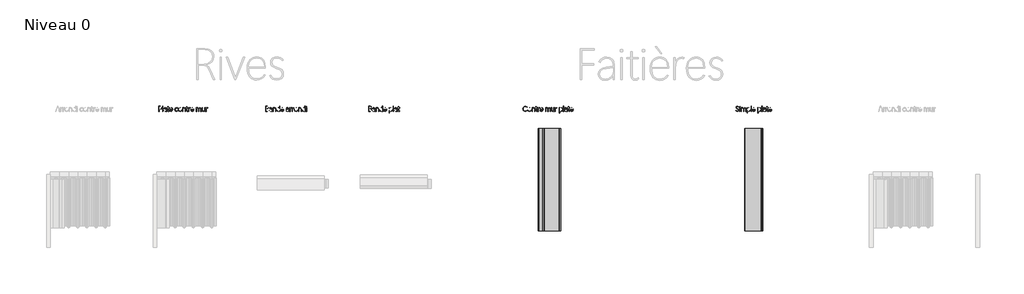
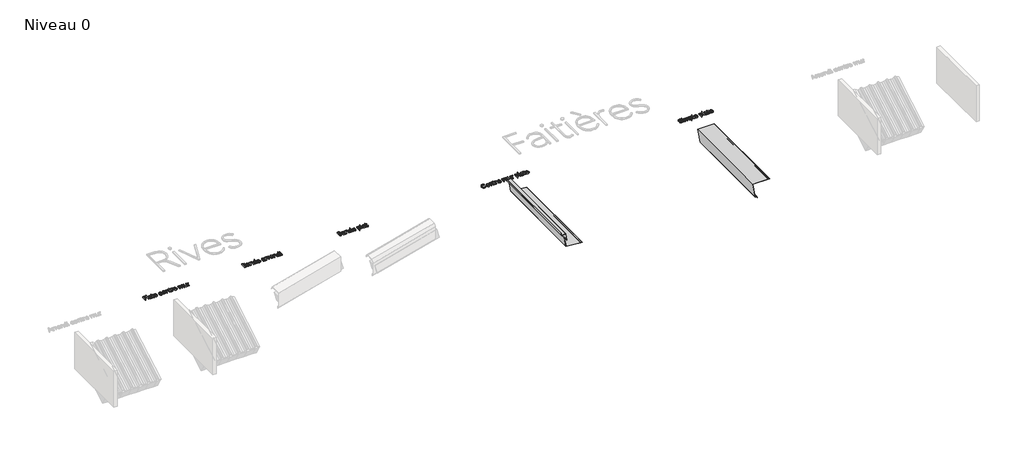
# One storey, part 16 of 26: 7 proxies.
"""IFC4 building model written with IfcOpenShell, lengths in millimetres."""

from ifc_helpers import new_model, si_unit, origin, origin_with_axes, place, context, project, spatial, polyline, outline, extrude, transform, mapped, element, save
from components import generic_models_2b05da81, generic_models_b33f6de4

model = new_model("IFC4")

# Units and contexts
model_context = context("Model", 3, world=origin())
ifc_project = project(units=[si_unit("LENGTHUNIT", "METRE", prefix="MILLI")], contexts=[model_context])

# Site, building, storey
site = spatial("IfcSite", under=ifc_project)
building = spatial("IfcBuilding", under=site)
storey = spatial("IfcBuildingStorey", under=building, Name="Niveau 0", Elevation=0.0)

# Proxies
placement = place(None, origin())
generic_models_shape = generic_models_2b05da81(model_context)
element("IfcBuildingElementProxy", 1, Name="Faitiere simple plate : Faitiere simple plate", ObjectType="Faitiere simple plate : Faitiere simple plate", at=placement, inside=storey, context=model_context, shape_type="MappedRepresentation", body=[
    mapped(generic_models_shape, transform((13964.6881645, -8404.4337097, 0.0), x_axis=(0.0, -1.0, 0.0), y_axis=(1.0, 0.0, 0.0), z_axis=(0.0, 0.0, 1.0))),
])
generic_models_2_shape = generic_models_b33f6de4(model_context)
element("IfcBuildingElementProxy", 2, Name="Faitiere contre mur plate : Faitiere contre mur plate", ObjectType="Faitiere contre mur plate : Faitiere contre mur plate", at=placement, inside=storey, context=model_context, shape_type="MappedRepresentation", body=[
    mapped(generic_models_2_shape, transform((12006.583757, -8404.4337097, 0.0), x_axis=(0.0, -1.0, 0.0), y_axis=(1.0, 0.0, 0.0), z_axis=(0.0, 0.0, 1.0))),
])
element("IfcBuildingElementProxy", 3, Name="0.5mm", ObjectType="0.5mm", at=placement, inside=storey, context=model_context, shape_type="SweptSolid", body=[
    extrude(outline(polyline([(13869.6233254, -8231.5532262), (13871.6912741, -8230.4076719), (13876.5859153, -8236.1056888), (13883.6080145, -8237.9356002), (13892.0434599, -8234.9006251), (13895.3908589, -8226.747849), (13892.9212223, -8219.212482), (13884.5899182, -8214.4294208), (13874.8601452, -8209.0587051), (13871.8251701, -8201.0844568), (13875.484993, -8192.0316023), (13885.0362381, -8188.4238501), (13892.7352557, -8190.5141148), (13897.5927035, -8195.9220238), (13895.5396322, -8197.0378234), (13891.4037348, -8192.3217102), (13885.0064834, -8190.5810627), (13877.3223431, -8193.3556846), (13874.1311561, -8200.8761742), (13876.7272499, -8207.6007269), (13885.2445207, -8212.2424534), (13894.855275, -8217.8512064), (13897.7265995, -8226.5395664), (13893.7394754, -8236.3139714), (13883.6080145, -8240.0928129), (13875.3139037, -8237.8984069), (13869.6233254, -8231.5532262)])), origin_with_axes(), (0.0, 0.0, 1.0), 10.0),
    extrude(outline(polyline([(13908.5126629, -8194.8359788), (13906.868718, -8194.211131), (13906.2066769, -8192.5746248), (13906.868718, -8190.93068), (13908.5126629, -8190.2983935), (13910.193801, -8190.93068), (13910.8037715, -8192.5746248), (13910.193801, -8194.211131), (13908.5126629, -8194.8359788)])), origin_with_axes(), (0.0, 0.0, 1.0), 10.0),
    extrude(outline(polyline([(13909.6284625, -8239.2596825), (13907.4563725, -8239.2596825), (13907.4563725, -8203.5540934), (13909.6284625, -8203.5540934), (13909.6284625, -8239.2596825)])), origin_with_axes(), (0.0, 0.0, 1.0), 10.0),
    extrude(outline(polyline([(13968.6021938, -8239.2596825), (13966.4747358, -8239.2596825), (13966.4747358, -8217.018076), (13963.9976605, -8207.7420615), (13957.1317733, -8204.7442797), (13949.447633, -8208.262768), (13946.3605873, -8217.2263586), (13946.3605873, -8239.2596825), (13944.2033746, -8239.2596825), (13944.2033746, -8216.839548), (13941.9197046, -8207.9131508), (13935.128204, -8204.7442797), (13927.1613945, -8208.1214334), (13924.0743487, -8216.973444), (13924.0743487, -8239.2596825), (13921.9171361, -8239.2596825), (13921.9171361, -8203.5540934), (13924.0743487, -8203.5540934), (13924.0743487, -8209.371129), (13928.8053393, -8204.3723465), (13935.306732, -8202.676331), (13942.1577419, -8205.0120716), (13945.6315981, -8211.2307951), (13950.2286927, -8204.9302463), (13957.1615279, -8202.676331), (13965.6564827, -8206.2915219), (13968.6021938, -8216.839548), (13968.6021938, -8239.2596825)])), origin_with_axes(), (0.0, 0.0, 1.0), 10.0),
    extrude(outline(polyline([(13981.3074325, -8233.1897323), (13981.2032912, -8255.6842534), (13979.0460786, -8255.6842534), (13979.0460786, -8203.5540934), (13981.2032912, -8203.5540934), (13981.2032912, -8211.6771149), (13986.4252336, -8205.1905996), (13994.8755564, -8202.676331), (14005.6021104, -8207.5784109), (14009.5594799, -8220.320843), (14005.2301772, -8234.9303798), (13993.6853701, -8240.0928129), (13986.0235458, -8238.1587601), (13981.3074325, -8233.1897323)]), holes=[polyline([(13981.2032912, -8219.7257498), (13981.2032912, -8226.0783692), (13984.7069022, -8234.5361306), (13993.7300021, -8238.0397415), (14003.593671, -8233.5616656), (14007.3278806, -8220.3654749), (14003.9060949, -8209.0140731), (13994.7714151, -8204.7442797), (13984.7961661, -8209.1554077), (13981.2032912, -8219.7257498)])]), origin_with_axes(), (0.0, 0.0, 1.0), 10.0),
    extrude(outline(polyline([(14018.0841893, -8239.2596825), (14018.0841893, -8186.4005333), (14020.2414019, -8186.4005333), (14020.2414019, -8239.2596825), (14018.0841893, -8239.2596825)])), origin_with_axes(), (0.0, 0.0, 1.0), 10.0),
    extrude(outline(polyline([(14058.2976089, -8220.4770549), (14031.0274653, -8220.7374082), (14034.6054629, -8233.7476322), (14044.4616932, -8238.0694962), (14051.2160004, -8236.3957967), (14055.991623, -8231.3746982), (14057.8810437, -8232.3863566), (14052.4061867, -8238.1661988), (14044.4616932, -8240.1374449), (14033.0879753, -8235.3543837), (14028.840498, -8220.6332669), (14033.2441873, -8207.5932882), (14044.4616932, -8202.676331), (14054.6675407, -8207.176723), (14058.2976089, -8220.4770549)]), holes=[polyline([(14056.0957643, -8218.7289688), (14052.8376293, -8208.2776453), (14044.3873065, -8204.7442797), (14035.28982, -8208.3669093), (14031.1316066, -8218.7289688), (14056.0957643, -8218.7289688)])]), origin_with_axes(), (0.0, 0.0, 1.0), 10.0),
    extrude(outline(polyline([(14086.0438271, -8233.1897323), (14085.9396858, -8255.6842534), (14083.7824731, -8255.6842534), (14083.7824731, -8203.5540934), (14085.9396858, -8203.5540934), (14085.9396858, -8211.6771149), (14091.1616282, -8205.1905996), (14099.6119509, -8202.676331), (14110.338505, -8207.5784109), (14114.2958744, -8220.320843), (14109.9665718, -8234.9303798), (14098.4217646, -8240.0928129), (14090.7599403, -8238.1587601), (14086.0438271, -8233.1897323)]), holes=[polyline([(14085.9396858, -8219.7257498), (14085.9396858, -8226.0783692), (14089.4432967, -8234.5361306), (14098.4663966, -8238.0397415), (14108.3300656, -8233.5616656), (14112.0642751, -8220.3654749), (14108.6424895, -8209.0140731), (14099.5078096, -8204.7442797), (14089.5325607, -8209.1554077), (14085.9396858, -8219.7257498)])]), origin_with_axes(), (0.0, 0.0, 1.0), 10.0),
    extrude(outline(polyline([(14122.8205838, -8239.2596825), (14122.8205838, -8186.4005333), (14124.9777965, -8186.4005333), (14124.9777965, -8239.2596825), (14122.8205838, -8239.2596825)])), origin_with_axes(), (0.0, 0.0, 1.0), 10.0),
    extrude(outline(polyline([(14159.9692738, -8239.2596825), (14157.7971838, -8239.2596825), (14157.7971838, -8232.3863566), (14152.5529254, -8237.9356002), (14145.002681, -8240.0928129), (14136.9689235, -8237.3033137), (14134.1273537, -8230.1547573), (14137.2292767, -8222.8871822), (14146.9664884, -8219.145534), (14157.8418158, -8217.6131691), (14157.8418158, -8215.5154658), (14155.1043873, -8207.4817082), (14147.6954775, -8204.7442797), (14141.4693154, -8206.4179792), (14136.9838008, -8211.364691), (14135.0051161, -8210.2488914), (14140.4204638, -8204.6178224), (14147.6954775, -8202.676331), (14156.6367521, -8206.0088527), (14159.9692738, -8215.5452204), (14159.9692738, -8239.2596825)]), holes=[polyline([(14157.7971838, -8225.3493801), (14157.7971838, -8219.6662405), (14147.2342803, -8221.094464), (14138.9922402, -8224.0699298), (14136.358953, -8230.095248), (14138.7467643, -8235.9494768), (14145.181209, -8238.1141282), (14154.0555356, -8234.4319893), (14157.7971838, -8225.3493801)])]), origin_with_axes(), (0.0, 0.0, 1.0), 10.0),
    extrude(outline(polyline([(14185.0673274, -8237.519035), (14182.129055, -8239.3861398), (14178.893236, -8239.9589169), (14173.8572602, -8238.0025482), (14172.1686834, -8232.1483193), (14172.1686834, -8205.5476555), (14165.6226587, -8205.5476555), (14165.6226587, -8203.5540934), (14172.1686834, -8203.5540934), (14172.1686834, -8193.9582164), (14174.325896, -8193.5862831), (14174.325896, -8203.5540934), (14184.055669, -8203.5540934), (14184.055669, -8205.5476555), (14174.325896, -8205.5476555), (14174.325896, -8231.999546), (14175.5160823, -8236.4850607), (14179.0420093, -8237.9653549), (14181.4967685, -8237.496719), (14183.8176318, -8235.9420382), (14185.0673274, -8237.519035)])), origin_with_axes(), (0.0, 0.0, 1.0), 10.0),
    extrude(outline(polyline([(14218.2586479, -8220.4770549), (14190.9885043, -8220.7374082), (14194.5665018, -8233.7476322), (14204.4227321, -8238.0694962), (14211.1770394, -8236.3957967), (14215.9526619, -8231.3746982), (14217.8420827, -8232.3863566), (14212.3672257, -8238.1661988), (14204.4227321, -8240.1374449), (14193.0490143, -8235.3543837), (14188.8015369, -8220.6332669), (14193.2052262, -8207.5932882), (14204.4227321, -8202.676331), (14214.6285797, -8207.176723), (14218.2586479, -8220.4770549)]), holes=[polyline([(14216.0568032, -8218.7289688), (14212.7986682, -8208.2776453), (14204.3483455, -8204.7442797), (14195.2508589, -8208.3669093), (14191.0926456, -8218.7289688), (14216.0568032, -8218.7289688)])]), origin_with_axes(), (0.0, 0.0, 1.0), 10.0),
])
element("IfcBuildingElementProxy", 4, Name="0.5mm", ObjectType="0.5mm", at=placement, inside=storey, context=model_context, shape_type="SweptSolid", body=[
    extrude(outline(polyline([(11839.600876, -8230.1250026), (11832.0729476, -8237.4818417), (11821.3761482, -8240.0928129), (11812.2526264, -8238.3317091), (11804.9664546, -8233.0483977), (11800.1908321, -8224.9235165), (11798.5989579, -8214.6377034), (11800.2336044, -8204.0097116), (11805.1375439, -8195.6319159), (11812.5855066, -8190.1923925), (11821.8522228, -8188.3792181), (11831.775401, -8190.662888), (11839.2586974, -8197.6924259), (11837.2651354, -8198.8826122), (11830.77862, -8192.7233981), (11821.8224681, -8190.6108174), (11813.5209186, -8192.2714992), (11806.8261207, -8197.2535447), (11802.407554, -8204.9135093), (11800.9346985, -8214.6079487), (11802.3647817, -8224.0383155), (11806.6550314, -8231.4714009), (11813.1843191, -8236.2972344), (11821.3315162, -8237.9058456), (11830.7265494, -8235.6519303), (11837.5775593, -8228.9794483), (11839.600876, -8230.1250026)])), origin_with_axes(), (0.0, 0.0, 1.0), 10.0),
    extrude(outline(polyline([(11863.3748474, -8240.0928129), (11851.1531218, -8234.9303798), (11846.5039565, -8221.4812746), (11851.3093337, -8207.9131508), (11863.5087433, -8202.676331), (11875.6486436, -8207.9280281), (11880.2457382, -8221.406888), (11875.5891343, -8234.8783092), (11863.3748474, -8240.0928129)]), holes=[polyline([(11863.449234, -8238.0397415), (11874.0418921, -8233.4054536), (11878.0141389, -8221.3771333), (11874.0567694, -8209.3636903), (11863.5087433, -8204.7442797), (11852.8268213, -8209.4455156), (11848.7355558, -8221.5110293), (11852.7598733, -8233.4575243), (11863.449234, -8238.0397415)])]), origin_with_axes(), (0.0, 0.0, 1.0), 10.0),
    extrude(outline(polyline([(11914.582613, -8239.2596825), (11912.455155, -8239.2596825), (11912.455155, -8217.018076), (11909.7326038, -8207.9652214), (11902.1600435, -8204.7442797), (11893.5907021, -8208.19582), (11890.2730578, -8217.018076), (11890.2730578, -8239.2596825), (11888.1158451, -8239.2596825), (11888.1158451, -8203.5540934), (11890.2730578, -8203.5540934), (11890.2730578, -8209.6537982), (11895.1751376, -8204.4764878), (11902.2790621, -8202.676331), (11911.3542326, -8206.4626112), (11914.582613, -8216.8097934), (11914.582613, -8239.2596825)])), origin_with_axes(), (0.0, 0.0, 1.0), 10.0),
    extrude(outline(polyline([(11938.9368002, -8237.519035), (11935.9985278, -8239.3861398), (11932.7627088, -8239.9589169), (11927.726733, -8238.0025482), (11926.0381561, -8232.1483193), (11926.0381561, -8205.5476555), (11919.4921315, -8205.5476555), (11919.4921315, -8203.5540934), (11926.0381561, -8203.5540934), (11926.0381561, -8193.9582164), (11928.1953688, -8193.5862831), (11928.1953688, -8203.5540934), (11937.9251418, -8203.5540934), (11937.9251418, -8205.5476555), (11928.1953688, -8205.5476555), (11928.1953688, -8231.999546), (11929.3855551, -8236.4850607), (11932.911482, -8237.9653549), (11935.3662413, -8237.496719), (11937.6871046, -8235.9420382), (11938.9368002, -8237.519035)])), origin_with_axes(), (0.0, 0.0, 1.0), 10.0),
    extrude(outline(polyline([(11961.0445107, -8205.5476555), (11959.3187406, -8204.960001), (11957.5929705, -8204.803789), (11950.2510087, -8209.0066344), (11947.3722456, -8221.1242187), (11947.3722456, -8239.2596825), (11945.2447876, -8239.2596825), (11945.2447876, -8203.5540934), (11947.3722456, -8203.5540934), (11947.3722456, -8211.4390777), (11951.3816857, -8205.071581), (11957.6971118, -8202.8251043), (11959.7501831, -8202.9961936), (11961.8776412, -8203.6582347), (11961.0445107, -8205.5476555)])), origin_with_axes(), (0.0, 0.0, 1.0), 10.0),
    extrude(outline(polyline([(11994.9796977, -8220.4770549), (11967.709554, -8220.7374082), (11971.2875516, -8233.7476322), (11981.1437819, -8238.0694962), (11987.8980892, -8236.3957967), (11992.6737117, -8231.3746982), (11994.5631325, -8232.3863566), (11989.0882755, -8238.1661988), (11981.1437819, -8240.1374449), (11969.7700641, -8235.3543837), (11965.5225867, -8220.6332669), (11969.926276, -8207.5932882), (11981.1437819, -8202.676331), (11991.3496295, -8207.176723), (11994.9796977, -8220.4770549)]), holes=[polyline([(11992.777853, -8218.7289688), (11989.519718, -8208.2776453), (11981.0693953, -8204.7442797), (11971.9719087, -8208.3669093), (11967.8136953, -8218.7289688), (11992.777853, -8218.7289688)])]), origin_with_axes(), (0.0, 0.0, 1.0), 10.0),
    extrude(outline(polyline([(12067.1496196, -8239.2596825), (12065.0221615, -8239.2596825), (12065.0221615, -8217.018076), (12062.5450863, -8207.7420615), (12055.6791991, -8204.7442797), (12047.9950588, -8208.262768), (12044.908013, -8217.2263586), (12044.908013, -8239.2596825), (12042.7508004, -8239.2596825), (12042.7508004, -8216.839548), (12040.4671304, -8207.9131508), (12033.6756298, -8204.7442797), (12025.7088203, -8208.1214334), (12022.6217745, -8216.973444), (12022.6217745, -8239.2596825), (12020.4645619, -8239.2596825), (12020.4645619, -8203.5540934), (12022.6217745, -8203.5540934), (12022.6217745, -8209.371129), (12027.3527651, -8204.3723465), (12033.8541578, -8202.676331), (12040.7051677, -8205.0120716), (12044.1790239, -8211.2307951), (12048.7761185, -8204.9302463), (12055.7089537, -8202.676331), (12064.2039085, -8206.2915219), (12067.1496196, -8216.839548), (12067.1496196, -8239.2596825)])), origin_with_axes(), (0.0, 0.0, 1.0), 10.0),
    extrude(outline(polyline([(12103.3312831, -8239.2299278), (12101.2038251, -8239.2299278), (12101.2038251, -8233.1153457), (12096.2496746, -8238.3000948), (12089.3465941, -8240.0928129), (12080.2119142, -8236.366042), (12076.8645152, -8226.0486145), (12076.8645152, -8203.5243388), (12079.0217279, -8203.5243388), (12079.0217279, -8225.8403319), (12081.8261044, -8234.7816065), (12089.525122, -8238.0397415), (12097.8861808, -8234.5733239), (12101.2038251, -8225.7659453), (12101.2038251, -8203.5243388), (12103.3312831, -8203.5243388), (12103.3312831, -8239.2299278)])), origin_with_axes(), (0.0, 0.0, 1.0), 10.0),
    extrude(outline(polyline([(12129.5748911, -8205.5476555), (12127.8491209, -8204.960001), (12126.1233508, -8204.803789), (12118.7813891, -8209.0066344), (12115.9026259, -8221.1242187), (12115.9026259, -8239.2596825), (12113.7751679, -8239.2596825), (12113.7751679, -8203.5540934), (12115.9026259, -8203.5540934), (12115.9026259, -8211.4390777), (12119.912066, -8205.071581), (12126.2274921, -8202.8251043), (12128.2805635, -8202.9961936), (12130.4080215, -8203.6582347), (12129.5748911, -8205.5476555)])), origin_with_axes(), (0.0, 0.0, 1.0), 10.0),
    extrude(outline(polyline([(12156.0267816, -8233.1897323), (12155.9226403, -8255.6842534), (12153.7654277, -8255.6842534), (12153.7654277, -8203.5540934), (12155.9226403, -8203.5540934), (12155.9226403, -8211.6771149), (12161.1445827, -8205.1905996), (12169.5949055, -8202.676331), (12180.3214595, -8207.5784109), (12184.278829, -8220.320843), (12179.9495263, -8234.9303798), (12168.4047192, -8240.0928129), (12160.7428949, -8238.1587601), (12156.0267816, -8233.1897323)]), holes=[polyline([(12155.9226403, -8219.7257498), (12155.9226403, -8226.0783692), (12159.4262513, -8234.5361306), (12168.4493512, -8238.0397415), (12178.3130201, -8233.5616656), (12182.0472297, -8220.3654749), (12178.625444, -8209.0140731), (12169.4907642, -8204.7442797), (12159.5155152, -8209.1554077), (12155.9226403, -8219.7257498)])]), origin_with_axes(), (0.0, 0.0, 1.0), 10.0),
    extrude(outline(polyline([(12192.8035384, -8239.2596825), (12192.8035384, -8186.4005333), (12194.960751, -8186.4005333), (12194.960751, -8239.2596825), (12192.8035384, -8239.2596825)])), origin_with_axes(), (0.0, 0.0, 1.0), 10.0),
    extrude(outline(polyline([(12229.9522283, -8239.2596825), (12227.7801383, -8239.2596825), (12227.7801383, -8232.3863566), (12222.5358799, -8237.9356002), (12214.9856356, -8240.0928129), (12206.951878, -8237.3033137), (12204.1103082, -8230.1547573), (12207.2122313, -8222.8871822), (12216.949443, -8219.145534), (12227.8247703, -8217.6131691), (12227.8247703, -8215.5154658), (12225.0873418, -8207.4817082), (12217.6784321, -8204.7442797), (12211.45227, -8206.4179792), (12206.9667554, -8211.364691), (12204.9880706, -8210.2488914), (12210.4034183, -8204.6178224), (12217.6784321, -8202.676331), (12226.6197067, -8206.0088527), (12229.9522283, -8215.5452204), (12229.9522283, -8239.2596825)]), holes=[polyline([(12227.7801383, -8225.3493801), (12227.7801383, -8219.6662405), (12217.2172349, -8221.094464), (12208.9751947, -8224.0699298), (12206.3419075, -8230.095248), (12208.7297188, -8235.9494768), (12215.1641635, -8238.1141282), (12224.0384901, -8234.4319893), (12227.7801383, -8225.3493801)])]), origin_with_axes(), (0.0, 0.0, 1.0), 10.0),
    extrude(outline(polyline([(12255.0502819, -8237.519035), (12252.1120095, -8239.3861398), (12248.8761905, -8239.9589169), (12243.8402147, -8238.0025482), (12242.1516379, -8232.1483193), (12242.1516379, -8205.5476555), (12235.6056132, -8205.5476555), (12235.6056132, -8203.5540934), (12242.1516379, -8203.5540934), (12242.1516379, -8193.9582164), (12244.3088506, -8193.5862831), (12244.3088506, -8203.5540934), (12254.0386236, -8203.5540934), (12254.0386236, -8205.5476555), (12244.3088506, -8205.5476555), (12244.3088506, -8231.999546), (12245.4990369, -8236.4850607), (12249.0249638, -8237.9653549), (12251.479723, -8237.496719), (12253.8005863, -8235.9420382), (12255.0502819, -8237.519035)])), origin_with_axes(), (0.0, 0.0, 1.0), 10.0),
    extrude(outline(polyline([(12288.2416024, -8220.4770549), (12260.9714588, -8220.7374082), (12264.5494564, -8233.7476322), (12274.4056867, -8238.0694962), (12281.1599939, -8236.3957967), (12285.9356165, -8231.3746982), (12287.8250372, -8232.3863566), (12282.3501802, -8238.1661988), (12274.4056867, -8240.1374449), (12263.0319688, -8235.3543837), (12258.7844915, -8220.6332669), (12263.1881808, -8207.5932882), (12274.4056867, -8202.676331), (12284.6115342, -8207.176723), (12288.2416024, -8220.4770549)]), holes=[polyline([(12286.0397578, -8218.7289688), (12282.7816228, -8208.2776453), (12274.3313, -8204.7442797), (12265.2338135, -8208.3669093), (12261.0756001, -8218.7289688), (12286.0397578, -8218.7289688)])]), origin_with_axes(), (0.0, 0.0, 1.0), 10.0),
])
element("IfcBuildingElementProxy", 5, Name="0.5mm", ObjectType="0.5mm", at=placement, inside=storey, context=model_context, shape_type="SweptSolid", body=[
    extrude(outline(polyline([(10301.2173677, -8239.2596825), (10301.2173677, -8189.2569805), (10313.6696919, -8189.2569805), (10323.0721637, -8192.4481675), (10326.6278453, -8201.0398249), (10324.1358927, -8208.4487346), (10317.4931654, -8213.0011972), (10325.3632723, -8217.0627079), (10328.517266, -8225.6915586), (10324.5227033, -8235.4957183), (10313.9374838, -8239.2596825), (10301.2173677, -8239.2596825)]), holes=[polyline([(10303.5233537, -8191.4141931), (10303.5233537, -8212.2722081), (10311.1107914, -8212.2722081), (10320.6545978, -8209.237233), (10324.26235, -8201.1885981), (10321.3687096, -8193.9954097), (10313.2382494, -8191.4141931), (10303.5233537, -8191.4141931)]), polyline([(10303.5233537, -8214.3996661), (10303.5233537, -8237.0578378), (10313.5953053, -8237.0578378), (10322.8043718, -8234.0600561), (10326.1517708, -8225.8700866), (10322.246472, -8217.2561132), (10311.3339513, -8214.3996661), (10303.5233537, -8214.3996661)])]), origin_with_axes(), (0.0, 0.0, 1.0), 10.0),
    extrude(outline(polyline([(10361.4705493, -8239.2596825), (10359.2984593, -8239.2596825), (10359.2984593, -8232.3863566), (10354.0542009, -8237.9356002), (10346.5039565, -8240.0928129), (10338.470199, -8237.3033137), (10335.6286292, -8230.1547573), (10338.7305522, -8222.8871822), (10348.4677639, -8219.145534), (10359.3430913, -8217.6131691), (10359.3430913, -8215.5154658), (10356.6056628, -8207.4817082), (10349.196753, -8204.7442797), (10342.9705909, -8206.4179792), (10338.4850763, -8211.364691), (10336.5063916, -8210.2488914), (10341.9217393, -8204.6178224), (10349.196753, -8202.676331), (10358.1380276, -8206.0088527), (10361.4705493, -8215.5452204), (10361.4705493, -8239.2596825)]), holes=[polyline([(10359.2984593, -8225.3493801), (10359.2984593, -8219.6662405), (10348.7355558, -8221.094464), (10340.4935157, -8224.0699298), (10337.8602285, -8230.095248), (10340.2480398, -8235.9494768), (10346.6824845, -8238.1141282), (10355.5568111, -8234.4319893), (10359.2984593, -8225.3493801)])]), origin_with_axes(), (0.0, 0.0, 1.0), 10.0),
    extrude(outline(polyline([(10398.3960793, -8239.2596825), (10396.2686213, -8239.2596825), (10396.2686213, -8217.018076), (10393.5460701, -8207.9652214), (10385.9735098, -8204.7442797), (10377.4041684, -8208.19582), (10374.0865241, -8217.018076), (10374.0865241, -8239.2596825), (10371.9293114, -8239.2596825), (10371.9293114, -8203.5540934), (10374.0865241, -8203.5540934), (10374.0865241, -8209.6537982), (10378.9886039, -8204.4764878), (10386.0925284, -8202.676331), (10395.1676989, -8206.4626112), (10398.3960793, -8216.8097934), (10398.3960793, -8239.2596825)])), origin_with_axes(), (0.0, 0.0, 1.0), 10.0),
    extrude(outline(polyline([(10433.7966831, -8231.5532262), (10428.5821794, -8237.8314589), (10420.6674405, -8240.0928129), (10409.6805332, -8235.1237851), (10405.5371971, -8221.9275945), (10410.260749, -8207.8387641), (10421.9915227, -8202.676331), (10429.0136219, -8204.4021012), (10433.7446125, -8209.3116197), (10433.8487538, -8186.4005333), (10436.0059664, -8186.4005333), (10436.0059664, -8239.2596825), (10433.8487538, -8239.2596825), (10433.7966831, -8231.5532262)]), holes=[polyline([(10407.7687964, -8221.7936985), (10411.3765486, -8233.7699482), (10420.7269498, -8238.0397415), (10430.2707562, -8233.9410374), (10433.8487538, -8223.6087326), (10433.8487538, -8216.1403136), (10430.4641615, -8208.0172921), (10421.9468907, -8204.7442797), (10411.7931138, -8209.3413743), (10407.7687964, -8221.7936985)])]), origin_with_axes(), (0.0, 0.0, 1.0), 10.0),
    extrude(outline(polyline([(10474.0324188, -8220.4770549), (10446.7622751, -8220.7374082), (10450.3402727, -8233.7476322), (10460.196503, -8238.0694962), (10466.9508103, -8236.3957967), (10471.7264328, -8231.3746982), (10473.6158536, -8232.3863566), (10468.1409966, -8238.1661988), (10460.196503, -8240.1374449), (10448.8227852, -8235.3543837), (10444.5753078, -8220.6332669), (10448.9789971, -8207.5932882), (10460.196503, -8202.676331), (10470.4023505, -8207.176723), (10474.0324188, -8220.4770549)]), holes=[polyline([(10471.8305741, -8218.7289688), (10468.5724391, -8208.2776453), (10460.1221164, -8204.7442797), (10451.0246298, -8208.3669093), (10446.8664164, -8218.7289688), (10471.8305741, -8218.7289688)])]), origin_with_axes(), (0.0, 0.0, 1.0), 10.0),
    extrude(outline(polyline([(10501.7786369, -8233.1897323), (10501.6744956, -8255.6842534), (10499.517283, -8255.6842534), (10499.517283, -8203.5540934), (10501.6744956, -8203.5540934), (10501.6744956, -8211.6771149), (10506.896438, -8205.1905996), (10515.3467608, -8202.676331), (10526.0733148, -8207.5784109), (10530.0306843, -8220.320843), (10525.7013816, -8234.9303798), (10514.1565745, -8240.0928129), (10506.4947501, -8238.1587601), (10501.7786369, -8233.1897323)]), holes=[polyline([(10501.6744956, -8219.7257498), (10501.6744956, -8226.0783692), (10505.1781066, -8234.5361306), (10514.2012065, -8238.0397415), (10524.0648754, -8233.5616656), (10527.799085, -8220.3654749), (10524.3772993, -8209.0140731), (10515.2426195, -8204.7442797), (10505.2673705, -8209.1554077), (10501.6744956, -8219.7257498)])]), origin_with_axes(), (0.0, 0.0, 1.0), 10.0),
    extrude(outline(polyline([(10538.5553937, -8239.2596825), (10538.5553937, -8186.4005333), (10540.7126063, -8186.4005333), (10540.7126063, -8239.2596825), (10538.5553937, -8239.2596825)])), origin_with_axes(), (0.0, 0.0, 1.0), 10.0),
    extrude(outline(polyline([(10575.7040836, -8239.2596825), (10573.5319936, -8239.2596825), (10573.5319936, -8232.3863566), (10568.2877352, -8237.9356002), (10560.7374909, -8240.0928129), (10552.7037333, -8237.3033137), (10549.8621635, -8230.1547573), (10552.9640866, -8222.8871822), (10562.7012983, -8219.145534), (10573.5766256, -8217.6131691), (10573.5766256, -8215.5154658), (10570.8391971, -8207.4817082), (10563.4302874, -8204.7442797), (10557.2041253, -8206.4179792), (10552.7186106, -8211.364691), (10550.7399259, -8210.2488914), (10556.1552736, -8204.6178224), (10563.4302874, -8202.676331), (10572.371562, -8206.0088527), (10575.7040836, -8215.5452204), (10575.7040836, -8239.2596825)]), holes=[polyline([(10573.5319936, -8225.3493801), (10573.5319936, -8219.6662405), (10562.9690902, -8221.094464), (10554.72705, -8224.0699298), (10552.0937628, -8230.095248), (10554.4815741, -8235.9494768), (10560.9160188, -8238.1141282), (10569.7903454, -8234.4319893), (10573.5319936, -8225.3493801)])]), origin_with_axes(), (0.0, 0.0, 1.0), 10.0),
    extrude(outline(polyline([(10600.8021372, -8237.519035), (10597.8638648, -8239.3861398), (10594.6280458, -8239.9589169), (10589.59207, -8238.0025482), (10587.9034932, -8232.1483193), (10587.9034932, -8205.5476555), (10581.3574685, -8205.5476555), (10581.3574685, -8203.5540934), (10587.9034932, -8203.5540934), (10587.9034932, -8193.9582164), (10590.0607059, -8193.5862831), (10590.0607059, -8203.5540934), (10599.7904789, -8203.5540934), (10599.7904789, -8205.5476555), (10590.0607059, -8205.5476555), (10590.0607059, -8231.999546), (10591.2508922, -8236.4850607), (10594.7768191, -8237.9653549), (10597.2315783, -8237.496719), (10599.5524416, -8235.9420382), (10600.8021372, -8237.519035)])), origin_with_axes(), (0.0, 0.0, 1.0), 10.0),
])
element("IfcBuildingElementProxy", 6, Name="0.5mm", ObjectType="0.5mm", at=placement, inside=storey, context=model_context, shape_type="SweptSolid", body=[
    extrude(outline(polyline([(9301.2173677, -8239.2596825), (9301.2173677, -8189.2569805), (9313.6696919, -8189.2569805), (9323.0721637, -8192.4481675), (9326.6278453, -8201.0398249), (9324.1358927, -8208.4487346), (9317.4931654, -8213.0011972), (9325.3632723, -8217.0627079), (9328.517266, -8225.6915586), (9324.5227033, -8235.4957183), (9313.9374838, -8239.2596825), (9301.2173677, -8239.2596825)]), holes=[polyline([(9303.5233537, -8191.4141931), (9303.5233537, -8212.2722081), (9311.1107914, -8212.2722081), (9320.6545978, -8209.237233), (9324.26235, -8201.1885981), (9321.3687096, -8193.9954097), (9313.2382494, -8191.4141931), (9303.5233537, -8191.4141931)]), polyline([(9303.5233537, -8214.3996661), (9303.5233537, -8237.0578378), (9313.5953053, -8237.0578378), (9322.8043718, -8234.0600561), (9326.1517708, -8225.8700866), (9322.246472, -8217.2561132), (9311.3339513, -8214.3996661), (9303.5233537, -8214.3996661)])]), origin_with_axes(), (0.0, 0.0, 1.0), 10.0),
    extrude(outline(polyline([(9361.4705493, -8239.2596825), (9359.2984593, -8239.2596825), (9359.2984593, -8232.3863566), (9354.0542009, -8237.9356002), (9346.5039565, -8240.0928129), (9338.470199, -8237.3033137), (9335.6286292, -8230.1547573), (9338.7305522, -8222.8871822), (9348.4677639, -8219.145534), (9359.3430913, -8217.6131691), (9359.3430913, -8215.5154658), (9356.6056628, -8207.4817082), (9349.196753, -8204.7442797), (9342.9705909, -8206.4179792), (9338.4850763, -8211.364691), (9336.5063916, -8210.2488914), (9341.9217393, -8204.6178224), (9349.196753, -8202.676331), (9358.1380276, -8206.0088527), (9361.4705493, -8215.5452204), (9361.4705493, -8239.2596825)]), holes=[polyline([(9359.2984593, -8225.3493801), (9359.2984593, -8219.6662405), (9348.7355558, -8221.094464), (9340.4935157, -8224.0699298), (9337.8602285, -8230.095248), (9340.2480398, -8235.9494768), (9346.6824845, -8238.1141282), (9355.5568111, -8234.4319893), (9359.2984593, -8225.3493801)])]), origin_with_axes(), (0.0, 0.0, 1.0), 10.0),
    extrude(outline(polyline([(9398.3960793, -8239.2596825), (9396.2686213, -8239.2596825), (9396.2686213, -8217.018076), (9393.5460701, -8207.9652214), (9385.9735098, -8204.7442797), (9377.4041684, -8208.19582), (9374.0865241, -8217.018076), (9374.0865241, -8239.2596825), (9371.9293114, -8239.2596825), (9371.9293114, -8203.5540934), (9374.0865241, -8203.5540934), (9374.0865241, -8209.6537982), (9378.9886039, -8204.4764878), (9386.0925284, -8202.676331), (9395.1676989, -8206.4626112), (9398.3960793, -8216.8097934), (9398.3960793, -8239.2596825)])), origin_with_axes(), (0.0, 0.0, 1.0), 10.0),
    extrude(outline(polyline([(9433.7966831, -8231.5532262), (9428.5821794, -8237.8314589), (9420.6674405, -8240.0928129), (9409.6805332, -8235.1237851), (9405.5371971, -8221.9275945), (9410.260749, -8207.8387641), (9421.9915227, -8202.676331), (9429.0136219, -8204.4021012), (9433.7446125, -8209.3116197), (9433.8487538, -8186.4005333), (9436.0059664, -8186.4005333), (9436.0059664, -8239.2596825), (9433.8487538, -8239.2596825), (9433.7966831, -8231.5532262)]), holes=[polyline([(9407.7687964, -8221.7936985), (9411.3765486, -8233.7699482), (9420.7269498, -8238.0397415), (9430.2707562, -8233.9410374), (9433.8487538, -8223.6087326), (9433.8487538, -8216.1403136), (9430.4641615, -8208.0172921), (9421.9468907, -8204.7442797), (9411.7931138, -8209.3413743), (9407.7687964, -8221.7936985)])]), origin_with_axes(), (0.0, 0.0, 1.0), 10.0),
    extrude(outline(polyline([(9474.0324188, -8220.4770549), (9446.7622751, -8220.7374082), (9450.3402727, -8233.7476322), (9460.196503, -8238.0694962), (9466.9508103, -8236.3957967), (9471.7264328, -8231.3746982), (9473.6158536, -8232.3863566), (9468.1409966, -8238.1661988), (9460.196503, -8240.1374449), (9448.8227852, -8235.3543837), (9444.5753078, -8220.6332669), (9448.9789971, -8207.5932882), (9460.196503, -8202.676331), (9470.4023505, -8207.176723), (9474.0324188, -8220.4770549)]), holes=[polyline([(9471.8305741, -8218.7289688), (9468.5724391, -8208.2776453), (9460.1221164, -8204.7442797), (9451.0246298, -8208.3669093), (9446.8664164, -8218.7289688), (9471.8305741, -8218.7289688)])]), origin_with_axes(), (0.0, 0.0, 1.0), 10.0),
    extrude(outline(polyline([(9523.3358863, -8239.2596825), (9521.1637963, -8239.2596825), (9521.1637963, -8232.3863566), (9515.9195379, -8237.9356002), (9508.3692936, -8240.0928129), (9500.335536, -8237.3033137), (9497.4939662, -8230.1547573), (9500.5958893, -8222.8871822), (9510.333101, -8219.145534), (9521.2084283, -8217.6131691), (9521.2084283, -8215.5154658), (9518.4709998, -8207.4817082), (9511.0620901, -8204.7442797), (9504.835928, -8206.4179792), (9500.3504134, -8211.364691), (9498.3717286, -8210.2488914), (9503.7870763, -8204.6178224), (9511.0620901, -8202.676331), (9520.0033647, -8206.0088527), (9523.3358863, -8215.5452204), (9523.3358863, -8239.2596825)]), holes=[polyline([(9521.1637963, -8225.3493801), (9521.1637963, -8219.6662405), (9510.6008929, -8221.094464), (9502.3588527, -8224.0699298), (9499.7255656, -8230.095248), (9502.1133768, -8235.9494768), (9508.5478215, -8238.1141282), (9517.4221481, -8234.4319893), (9521.1637963, -8225.3493801)])]), origin_with_axes(), (0.0, 0.0, 1.0), 10.0),
    extrude(outline(polyline([(9549.5943716, -8205.5476555), (9547.8686015, -8204.960001), (9546.1428313, -8204.803789), (9538.8008696, -8209.0066344), (9535.9221065, -8221.1242187), (9535.9221065, -8239.2596825), (9533.7946484, -8239.2596825), (9533.7946484, -8203.5540934), (9535.9221065, -8203.5540934), (9535.9221065, -8211.4390777), (9539.9315466, -8205.071581), (9546.2469726, -8202.8251043), (9548.300044, -8202.9961936), (9550.427502, -8203.6582347), (9549.5943716, -8205.5476555)])), origin_with_axes(), (0.0, 0.0, 1.0), 10.0),
    extrude(outline(polyline([(9572.4459486, -8205.5476555), (9570.7201785, -8204.960001), (9568.9944083, -8204.803789), (9561.6524466, -8209.0066344), (9558.7736835, -8221.1242187), (9558.7736835, -8239.2596825), (9556.6462254, -8239.2596825), (9556.6462254, -8203.5540934), (9558.7736835, -8203.5540934), (9558.7736835, -8211.4390777), (9562.7831236, -8205.071581), (9569.0985496, -8202.8251043), (9571.151621, -8202.9961936), (9573.279079, -8203.6582347), (9572.4459486, -8205.5476555)])), origin_with_axes(), (0.0, 0.0, 1.0), 10.0),
    extrude(outline(polyline([(9593.7949154, -8240.0928129), (9581.5731898, -8234.9303798), (9576.9240246, -8221.4812746), (9581.7294018, -8207.9131508), (9593.9288113, -8202.676331), (9606.0687116, -8207.9280281), (9610.6658062, -8221.406888), (9606.0092023, -8234.8783092), (9593.7949154, -8240.0928129)]), holes=[polyline([(9593.869302, -8238.0397415), (9604.4619601, -8233.4054536), (9608.4342069, -8221.3771333), (9604.4768374, -8209.3636903), (9593.9288113, -8204.7442797), (9583.2468893, -8209.4455156), (9579.1556239, -8221.5110293), (9583.1799413, -8233.4575243), (9593.869302, -8238.0397415)])]), origin_with_axes(), (0.0, 0.0, 1.0), 10.0),
    extrude(outline(polyline([(9645.002681, -8239.2596825), (9642.875223, -8239.2596825), (9642.875223, -8217.018076), (9640.1526718, -8207.9652214), (9632.5801115, -8204.7442797), (9624.0107701, -8208.19582), (9620.6931258, -8217.018076), (9620.6931258, -8239.2596825), (9618.5359131, -8239.2596825), (9618.5359131, -8203.5540934), (9620.6931258, -8203.5540934), (9620.6931258, -8209.6537982), (9625.5952056, -8204.4764878), (9632.6991301, -8202.676331), (9641.7743007, -8206.4626112), (9645.002681, -8216.8097934), (9645.002681, -8239.2596825)])), origin_with_axes(), (0.0, 0.0, 1.0), 10.0),
    extrude(outline(polyline([(9680.4032848, -8231.5532262), (9675.1887811, -8237.8314589), (9667.2740422, -8240.0928129), (9656.2871349, -8235.1237851), (9652.1437988, -8221.9275945), (9656.8673507, -8207.8387641), (9668.5981245, -8202.676331), (9675.6202236, -8204.4021012), (9680.3512142, -8209.3116197), (9680.4553555, -8186.4005333), (9682.6125682, -8186.4005333), (9682.6125682, -8239.2596825), (9680.4553555, -8239.2596825), (9680.4032848, -8231.5532262)]), holes=[polyline([(9654.3753981, -8221.7936985), (9657.9831504, -8233.7699482), (9667.3335515, -8238.0397415), (9676.8773579, -8233.9410374), (9680.4553555, -8223.6087326), (9680.4553555, -8216.1403136), (9677.0707632, -8208.0172921), (9668.5534925, -8204.7442797), (9658.3997156, -8209.3413743), (9654.3753981, -8221.7936985)])]), origin_with_axes(), (0.0, 0.0, 1.0), 10.0),
    extrude(outline(polyline([(9694.6334498, -8194.8359788), (9692.989505, -8194.211131), (9692.3274638, -8192.5746248), (9692.989505, -8190.93068), (9694.6334498, -8190.2983935), (9696.314588, -8190.93068), (9696.9245584, -8192.5746248), (9696.314588, -8194.211131), (9694.6334498, -8194.8359788)])), origin_with_axes(), (0.0, 0.0, 1.0), 10.0),
    extrude(outline(polyline([(9695.7492495, -8239.2596825), (9693.5771595, -8239.2596825), (9693.5771595, -8203.5540934), (9695.7492495, -8203.5540934), (9695.7492495, -8239.2596825)])), origin_with_axes(), (0.0, 0.0, 1.0), 10.0),
])
element("IfcBuildingElementProxy", 7, Name="0.5mm", ObjectType="0.5mm", at=placement, inside=storey, context=model_context, shape_type="SweptSolid", body=[
    extrude(outline(polyline([(8263.5233537, -8218.967006), (8263.5233537, -8239.2596825), (8261.2173677, -8239.2596825), (8261.2173677, -8189.2569805), (8271.8100258, -8189.2569805), (8283.5482382, -8193.0730153), (8287.9221729, -8203.6879894), (8283.5631156, -8214.7269673), (8271.1554234, -8218.967006), (8263.5233537, -8218.967006)]), holes=[polyline([(8263.5233537, -8191.4141931), (8263.5233537, -8216.7651614), (8271.185178, -8216.7651614), (8281.7480815, -8213.3880077), (8285.5864323, -8203.8367627), (8281.8894161, -8194.7095215), (8271.5719886, -8191.4141931), (8263.5233537, -8191.4141931)])]), origin_with_axes(), (0.0, 0.0, 1.0), 10.0),
    extrude(outline(polyline([(8297.6519459, -8239.2596825), (8297.6519459, -8186.4005333), (8299.8091586, -8186.4005333), (8299.8091586, -8239.2596825), (8297.6519459, -8239.2596825)])), origin_with_axes(), (0.0, 0.0, 1.0), 10.0),
    extrude(outline(polyline([(8334.8006359, -8239.2596825), (8332.6285459, -8239.2596825), (8332.6285459, -8232.3863566), (8327.3842875, -8237.9356002), (8319.8340431, -8240.0928129), (8311.8002856, -8237.3033137), (8308.9587158, -8230.1547573), (8312.0606388, -8222.8871822), (8321.7978505, -8219.145534), (8332.6731778, -8217.6131691), (8332.6731778, -8215.5154658), (8329.9357493, -8207.4817082), (8322.5268396, -8204.7442797), (8316.3006775, -8206.4179792), (8311.8151629, -8211.364691), (8309.8364782, -8210.2488914), (8315.2518258, -8204.6178224), (8322.5268396, -8202.676331), (8331.4681142, -8206.0088527), (8334.8006359, -8215.5452204), (8334.8006359, -8239.2596825)]), holes=[polyline([(8332.6285459, -8225.3493801), (8332.6285459, -8219.6662405), (8322.0656424, -8221.094464), (8313.8236023, -8224.0699298), (8311.1903151, -8230.095248), (8313.5781264, -8235.9494768), (8320.0125711, -8238.1141282), (8328.8868977, -8234.4319893), (8332.6285459, -8225.3493801)])]), origin_with_axes(), (0.0, 0.0, 1.0), 10.0),
    extrude(outline(polyline([(8359.8986895, -8237.519035), (8356.9604171, -8239.3861398), (8353.7245981, -8239.9589169), (8348.6886223, -8238.0025482), (8347.0000454, -8232.1483193), (8347.0000454, -8205.5476555), (8340.4540208, -8205.5476555), (8340.4540208, -8203.5540934), (8347.0000454, -8203.5540934), (8347.0000454, -8193.9582164), (8349.1572581, -8193.5862831), (8349.1572581, -8203.5540934), (8358.8870311, -8203.5540934), (8358.8870311, -8205.5476555), (8349.1572581, -8205.5476555), (8349.1572581, -8231.999546), (8350.3474444, -8236.4850607), (8353.8733713, -8237.9653549), (8356.3281306, -8237.496719), (8358.6489939, -8235.9420382), (8359.8986895, -8237.519035)])), origin_with_axes(), (0.0, 0.0, 1.0), 10.0),
    extrude(outline(polyline([(8393.09001, -8220.4770549), (8365.8198663, -8220.7374082), (8369.3978639, -8233.7476322), (8379.2540942, -8238.0694962), (8386.0084015, -8236.3957967), (8390.784024, -8231.3746982), (8392.6734448, -8232.3863566), (8387.1985878, -8238.1661988), (8379.2540942, -8240.1374449), (8367.8803764, -8235.3543837), (8363.632899, -8220.6332669), (8368.0365883, -8207.5932882), (8379.2540942, -8202.676331), (8389.4599418, -8207.176723), (8393.09001, -8220.4770549)]), holes=[polyline([(8390.8881653, -8218.7289688), (8387.6300303, -8208.2776453), (8379.1797076, -8204.7442797), (8370.082221, -8208.3669093), (8365.9240076, -8218.7289688), (8390.8881653, -8218.7289688)])]), origin_with_axes(), (0.0, 0.0, 1.0), 10.0),
    extrude(outline(polyline([(8444.9672554, -8233.4426469), (8439.6709264, -8238.3521654), (8432.0686114, -8240.0928129), (8420.5312429, -8235.0196438), (8416.0010963, -8221.4812746), (8420.7023322, -8207.7495001), (8432.5893179, -8202.676331), (8439.6188557, -8204.3202759), (8444.8928688, -8209.2074784), (8443.1968533, -8210.3827873), (8438.4658627, -8206.02373), (8432.5595632, -8204.6996477), (8422.2718904, -8209.1851624), (8418.2326956, -8221.5110293), (8422.1677491, -8233.5393496), (8432.142998, -8238.0397415), (8438.5551267, -8236.5743246), (8443.2563626, -8232.178074), (8444.9672554, -8233.4426469)])), origin_with_axes(), (0.0, 0.0, 1.0), 10.0),
    extrude(outline(polyline([(8467.1493526, -8240.0928129), (8454.927627, -8234.9303798), (8450.2784618, -8221.4812746), (8455.083839, -8207.9131508), (8467.2832486, -8202.676331), (8479.4231489, -8207.9280281), (8484.0202434, -8221.406888), (8479.3636395, -8234.8783092), (8467.1493526, -8240.0928129)]), holes=[polyline([(8467.2237393, -8238.0397415), (8477.8163973, -8233.4054536), (8481.7886441, -8221.3771333), (8477.8312747, -8209.3636903), (8467.2832486, -8204.7442797), (8456.6013265, -8209.4455156), (8452.5100611, -8221.5110293), (8456.5343785, -8233.4575243), (8467.2237393, -8238.0397415)])]), origin_with_axes(), (0.0, 0.0, 1.0), 10.0),
    extrude(outline(polyline([(8518.3571182, -8239.2596825), (8516.2296602, -8239.2596825), (8516.2296602, -8217.018076), (8513.5071091, -8207.9652214), (8505.9345487, -8204.7442797), (8497.3652074, -8208.19582), (8494.047563, -8217.018076), (8494.047563, -8239.2596825), (8491.8903504, -8239.2596825), (8491.8903504, -8203.5540934), (8494.047563, -8203.5540934), (8494.047563, -8209.6537982), (8498.9496429, -8204.4764878), (8506.0535674, -8202.676331), (8515.1287379, -8206.4626112), (8518.3571182, -8216.8097934), (8518.3571182, -8239.2596825)])), origin_with_axes(), (0.0, 0.0, 1.0), 10.0),
    extrude(outline(polyline([(8542.7113054, -8237.519035), (8539.773033, -8239.3861398), (8536.537214, -8239.9589169), (8531.5012382, -8238.0025482), (8529.8126614, -8232.1483193), (8529.8126614, -8205.5476555), (8523.2666367, -8205.5476555), (8523.2666367, -8203.5540934), (8529.8126614, -8203.5540934), (8529.8126614, -8193.9582164), (8531.9698741, -8193.5862831), (8531.9698741, -8203.5540934), (8541.6996471, -8203.5540934), (8541.6996471, -8205.5476555), (8531.9698741, -8205.5476555), (8531.9698741, -8231.999546), (8533.1600604, -8236.4850607), (8536.6859873, -8237.9653549), (8539.1407465, -8237.496719), (8541.4616098, -8235.9420382), (8542.7113054, -8237.519035)])), origin_with_axes(), (0.0, 0.0, 1.0), 10.0),
    extrude(outline(polyline([(8564.819016, -8205.5476555), (8563.0932459, -8204.960001), (8561.3674757, -8204.803789), (8554.025514, -8209.0066344), (8551.1467509, -8221.1242187), (8551.1467509, -8239.2596825), (8549.0192928, -8239.2596825), (8549.0192928, -8203.5540934), (8551.1467509, -8203.5540934), (8551.1467509, -8211.4390777), (8555.156191, -8205.071581), (8561.471617, -8202.8251043), (8563.5246884, -8202.9961936), (8565.6521464, -8203.6582347), (8564.819016, -8205.5476555)])), origin_with_axes(), (0.0, 0.0, 1.0), 10.0),
    extrude(outline(polyline([(8598.7542029, -8220.4770549), (8571.4840593, -8220.7374082), (8575.0620569, -8233.7476322), (8584.9182872, -8238.0694962), (8591.6725944, -8236.3957967), (8596.448217, -8231.3746982), (8598.3376377, -8232.3863566), (8592.8627807, -8238.1661988), (8584.9182872, -8240.1374449), (8573.5445693, -8235.3543837), (8569.297092, -8220.6332669), (8573.7007813, -8207.5932882), (8584.9182872, -8202.676331), (8595.1241347, -8207.176723), (8598.7542029, -8220.4770549)]), holes=[polyline([(8596.5523583, -8218.7289688), (8593.2942233, -8208.2776453), (8584.8439005, -8204.7442797), (8575.746414, -8208.3669093), (8571.5882006, -8218.7289688), (8596.5523583, -8218.7289688)])]), origin_with_axes(), (0.0, 0.0, 1.0), 10.0),
    extrude(outline(polyline([(8670.9241248, -8239.2596825), (8668.7966668, -8239.2596825), (8668.7966668, -8217.018076), (8666.3195916, -8207.7420615), (8659.4537043, -8204.7442797), (8651.769564, -8208.262768), (8648.6825183, -8217.2263586), (8648.6825183, -8239.2596825), (8646.5253056, -8239.2596825), (8646.5253056, -8216.839548), (8644.2416357, -8207.9131508), (8637.4501351, -8204.7442797), (8629.4833255, -8208.1214334), (8626.3962798, -8216.973444), (8626.3962798, -8239.2596825), (8624.2390671, -8239.2596825), (8624.2390671, -8203.5540934), (8626.3962798, -8203.5540934), (8626.3962798, -8209.371129), (8631.1272703, -8204.3723465), (8637.628663, -8202.676331), (8644.4796729, -8205.0120716), (8647.9535292, -8211.2307951), (8652.5506238, -8204.9302463), (8659.483459, -8202.676331), (8667.9784137, -8206.2915219), (8670.9241248, -8216.839548), (8670.9241248, -8239.2596825)])), origin_with_axes(), (0.0, 0.0, 1.0), 10.0),
    extrude(outline(polyline([(8707.1057884, -8239.2299278), (8704.9783304, -8239.2299278), (8704.9783304, -8233.1153457), (8700.0241799, -8238.3000948), (8693.1210993, -8240.0928129), (8683.9864195, -8236.366042), (8680.6390205, -8226.0486145), (8680.6390205, -8203.5243388), (8682.7962332, -8203.5243388), (8682.7962332, -8225.8403319), (8685.6006096, -8234.7816065), (8693.2996273, -8238.0397415), (8701.6606861, -8234.5733239), (8704.9783304, -8225.7659453), (8704.9783304, -8203.5243388), (8707.1057884, -8203.5243388), (8707.1057884, -8239.2299278)])), origin_with_axes(), (0.0, 0.0, 1.0), 10.0),
    extrude(outline(polyline([(8733.3493963, -8205.5476555), (8731.6236262, -8204.960001), (8729.8978561, -8204.803789), (8722.5558943, -8209.0066344), (8719.6771312, -8221.1242187), (8719.6771312, -8239.2596825), (8717.5496732, -8239.2596825), (8717.5496732, -8203.5540934), (8719.6771312, -8203.5540934), (8719.6771312, -8211.4390777), (8723.6865713, -8205.071581), (8730.0019974, -8202.8251043), (8732.0550687, -8202.9961936), (8734.1825268, -8203.6582347), (8733.3493963, -8205.5476555)])), origin_with_axes(), (0.0, 0.0, 1.0), 10.0),
])

save(model, "model.ifc")
